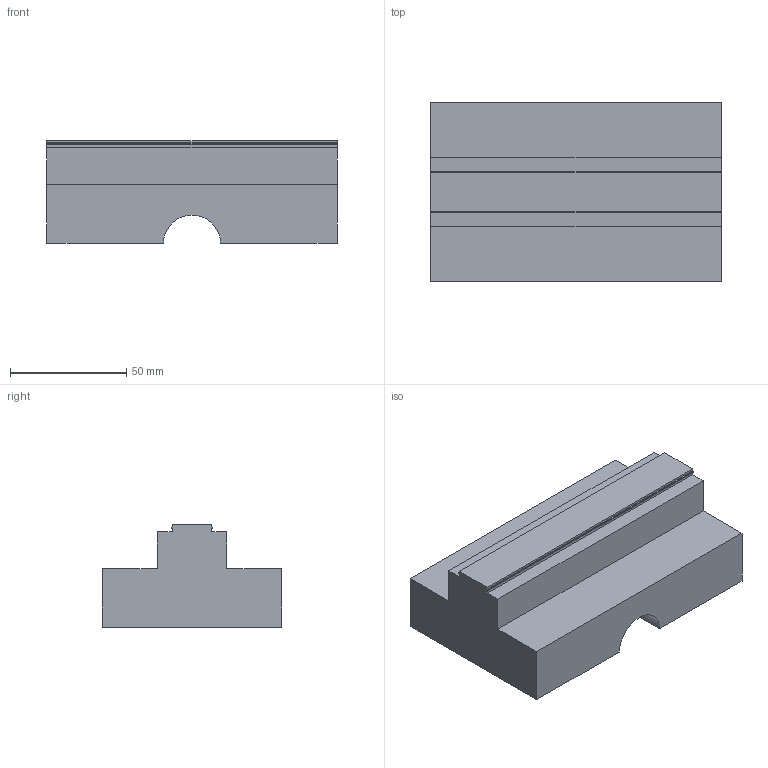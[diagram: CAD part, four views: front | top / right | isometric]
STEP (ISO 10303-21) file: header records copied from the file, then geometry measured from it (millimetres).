
FILE_DESCRIPTION (( 'STEP AP214' ), '1' );
FILE_NAME ('81483-TG.STEP', '2020-10-27T13:43:31', ( '' ), ( '' ), 'SwSTEP 2.0', 'SolidWorks 2019', '' );
FILE_SCHEMA (( 'AUTOMOTIVE_DESIGN' ));
Length unit declared in the file: millimetre
Products named in the file (1): 81483-TG
Bounding box: 124.6 x 77 x 44 mm (x, y, z)
Volume: 289067.7 mm3; surface area: 35767.7 mm2
Topology: 1 solids, 1 shells, 25 faces, 69 edges, 46 vertices
Faces by surface type: plane 23, cylinder 2
Entity records: 1008 total; most frequent: CARTESIAN_POINT 141, ORIENTED_EDGE 138, DIRECTION 125, EDGE_CURVE 69, LINE 65, VECTOR 65, VERTEX_POINT 46, AXIS2_PLACEMENT_3D 30
